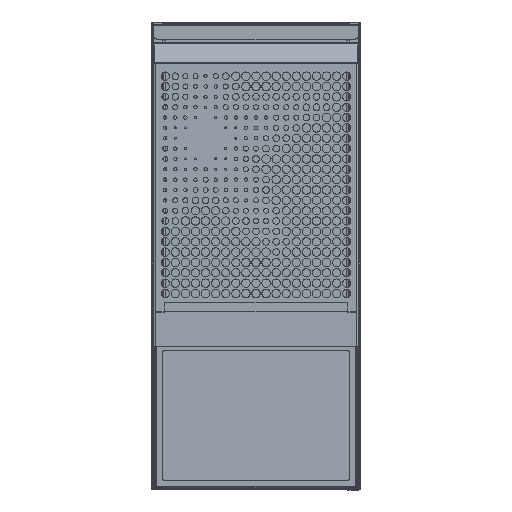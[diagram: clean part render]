
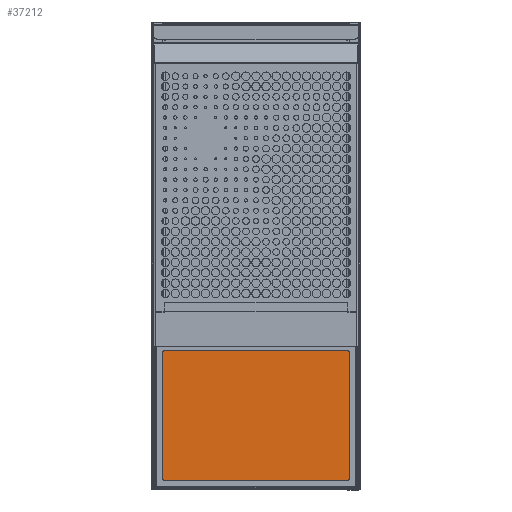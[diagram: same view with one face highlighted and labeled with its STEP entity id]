
A CAD part, top view. The second image highlights one B-rep face of the part: STEP entity #37212.
In plain terms, the highlighted planar face has unit normal (0, 0, 1).
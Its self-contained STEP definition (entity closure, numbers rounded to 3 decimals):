
#2062 = ORIENTED_EDGE ( 'NONE', *, *, #32873, .T. ) ;
#2471 = EDGE_CURVE ( 'NONE', #46749, #51180, #3225, .T. ) ;
#3225 = LINE ( 'NONE', #43675, #55573 ) ;
#3447 = ORIENTED_EDGE ( 'NONE', *, *, #42511, .T. ) ;
#3458 = EDGE_CURVE ( 'NONE', #51180, #8438, #30645, .T. ) ;
#4748 = VECTOR ( 'NONE', #39718, 1000. ) ;
#5094 = LINE ( 'NONE', #19964, #4748 ) ;
#5665 = DIRECTION ( 'NONE',  ( 1., 0., 0. ) ) ;
#6055 = CARTESIAN_POINT ( 'NONE',  ( 120., 192.929, 118.603 ) ) ;
#8438 = VERTEX_POINT ( 'NONE', #61579 ) ;
#19220 = CARTESIAN_POINT ( 'NONE',  ( -120., 192.929, 118.603 ) ) ;
#19964 = CARTESIAN_POINT ( 'NONE',  ( -120., 192.929, 118.603 ) ) ;
#20986 = CARTESIAN_POINT ( 'NONE',  ( -120., 0.929, 118.603 ) ) ;
#30274 = CARTESIAN_POINT ( 'NONE',  ( -120., 0.929, 118.603 ) ) ;
#30645 = LINE ( 'NONE', #31281, #43236 ) ;
#31281 = CARTESIAN_POINT ( 'NONE',  ( -120., 0.929, 118.603 ) ) ;
#31499 = ORIENTED_EDGE ( 'NONE', *, *, #2471, .T. ) ;
#32873 = EDGE_CURVE ( 'NONE', #8438, #57212, #40089, .T. ) ;
#37212 = ADVANCED_FACE ( 'NONE', ( #41575 ), #56480, .T. ) ;
#37849 = DIRECTION ( 'NONE',  ( 0., -1., 0. ) ) ;
#39440 = DIRECTION ( 'NONE',  ( 0., 1., 0. ) ) ;
#39718 = DIRECTION ( 'NONE',  ( -1., 0., 0. ) ) ;
#40089 = LINE ( 'NONE', #44638, #53812 ) ;
#41575 = FACE_OUTER_BOUND ( 'NONE', #61234, .T. ) ;
#42511 = EDGE_CURVE ( 'NONE', #57212, #46749, #5094, .T. ) ;
#43236 = VECTOR ( 'NONE', #45850, 1000. ) ;
#43675 = CARTESIAN_POINT ( 'NONE',  ( -120., 0.929, 118.603 ) ) ;
#44638 = CARTESIAN_POINT ( 'NONE',  ( 120., 0.929, 118.603 ) ) ;
#45850 = DIRECTION ( 'NONE',  ( 1., 0., 0. ) ) ;
#46485 = ORIENTED_EDGE ( 'NONE', *, *, #3458, .T. ) ;
#46749 = VERTEX_POINT ( 'NONE', #19220 ) ;
#50038 = DIRECTION ( 'NONE',  ( 0., 0., 1. ) ) ;
#51180 = VERTEX_POINT ( 'NONE', #20986 ) ;
#53812 = VECTOR ( 'NONE', #39440, 1000. ) ;
#55573 = VECTOR ( 'NONE', #37849, 1000. ) ;
#56480 = PLANE ( 'NONE',  #57996 ) ;
#57212 = VERTEX_POINT ( 'NONE', #6055 ) ;
#57996 = AXIS2_PLACEMENT_3D ( 'NONE', #30274, #50038, #5665 ) ;
#61234 = EDGE_LOOP ( 'NONE', ( #31499, #46485, #2062, #3447 ) ) ;
#61579 = CARTESIAN_POINT ( 'NONE',  ( 120., 0.929, 118.603 ) ) ;
